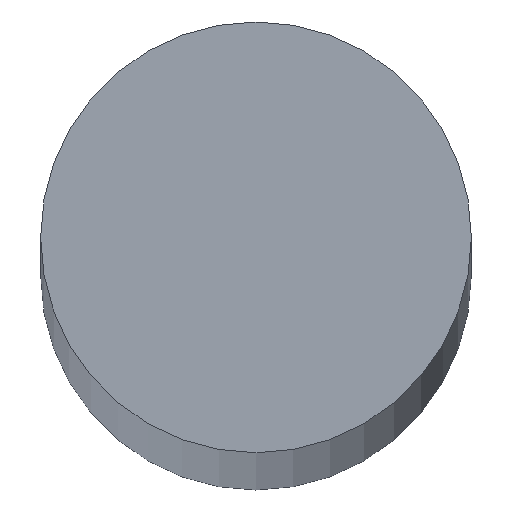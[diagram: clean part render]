
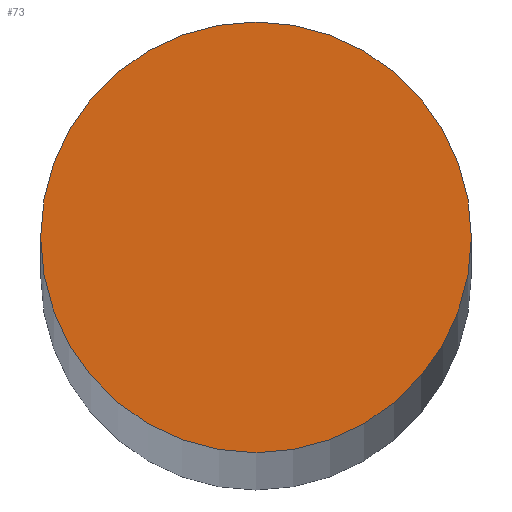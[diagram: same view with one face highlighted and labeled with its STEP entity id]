
A CAD part, top view. The second image highlights one B-rep face of the part: STEP entity #73.
In plain terms, the highlighted planar face has unit normal (0, 0, 1).
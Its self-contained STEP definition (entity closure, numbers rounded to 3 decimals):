
#3 = VERTEX_POINT ( 'NONE', #5 ) ;
#5 = CARTESIAN_POINT ( 'NONE',  ( 6., 0., 297.5 ) ) ;
#6 = CARTESIAN_POINT ( 'NONE',  ( -6., 0., 297.5 ) ) ;
#9 = VERTEX_POINT ( 'NONE', #6 ) ;
#26 = CARTESIAN_POINT ( 'NONE',  ( 0., 0., 297.5 ) ) ;
#27 = PLANE ( 'NONE',  #121 ) ;
#29 = DIRECTION ( 'NONE',  ( 0., 0., 1. ) ) ;
#30 = DIRECTION ( 'NONE',  ( 1., 0., 0. ) ) ;
#31 = CARTESIAN_POINT ( 'NONE',  ( 0., 0., 297.5 ) ) ;
#32 = DIRECTION ( 'NONE',  ( 0., 0., 1. ) ) ;
#35 = DIRECTION ( 'NONE',  ( 1., 0., 0. ) ) ;
#41 = CARTESIAN_POINT ( 'NONE',  ( 0., 0., 297.5 ) ) ;
#42 = DIRECTION ( 'NONE',  ( 0., 0., 1. ) ) ;
#43 = DIRECTION ( 'NONE',  ( 1., 0., 0. ) ) ;
#73 = ADVANCED_FACE ( 'NONE', ( #102 ), #27, .T. ) ;
#80 = ORIENTED_EDGE ( 'NONE', *, *, #123, .T. ) ;
#81 = ORIENTED_EDGE ( 'NONE', *, *, #131, .T. ) ;
#86 = EDGE_LOOP ( 'NONE', ( #81, #80 ) ) ;
#102 = FACE_OUTER_BOUND ( 'NONE', #86, .T. ) ;
#105 = CIRCLE ( 'NONE', #136, 6. ) ;
#110 = CIRCLE ( 'NONE', #129, 6. ) ;
#121 = AXIS2_PLACEMENT_3D ( 'NONE', #26, #29, #30 ) ;
#123 = EDGE_CURVE ( 'NONE', #3, #9, #105, .T. ) ;
#129 = AXIS2_PLACEMENT_3D ( 'NONE', #41, #42, #43 ) ;
#131 = EDGE_CURVE ( 'NONE', #9, #3, #110, .T. ) ;
#136 = AXIS2_PLACEMENT_3D ( 'NONE', #31, #32, #35 ) ;
